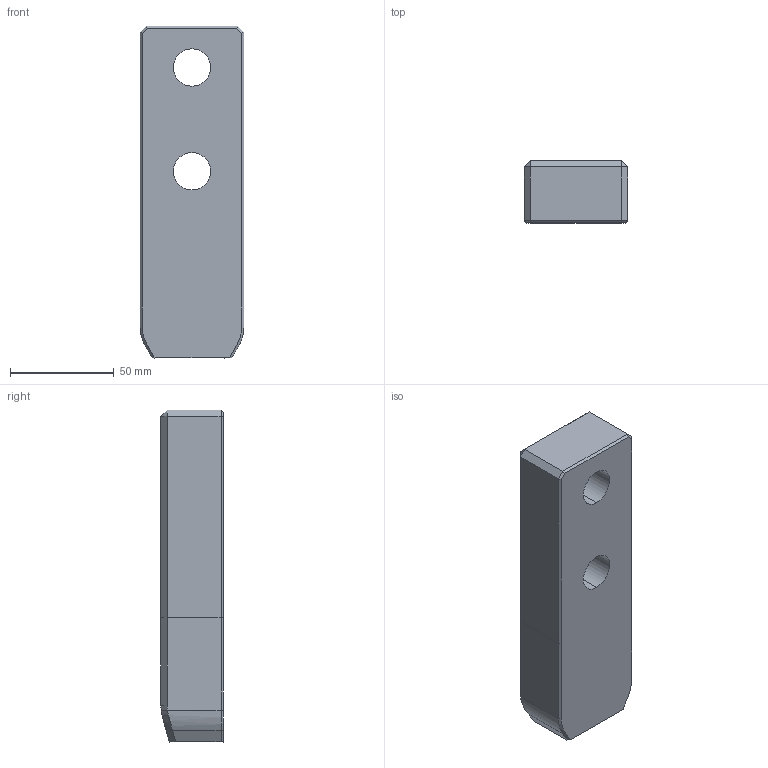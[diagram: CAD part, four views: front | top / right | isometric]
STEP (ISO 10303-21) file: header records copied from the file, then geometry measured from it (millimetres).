
FILE_DESCRIPTION((''),'2;1');
FILE_NAME('','2010-09-08T12:46:21+09:00',('misumi'),(''),'M/STEP i/f 1R2-14','CADmeister v5.1','');
FILE_SCHEMA(('AUTOMOTIVE_DESIGN'));
Length unit declared in the file: millimetre
Products named in the file (1): OGP50-160
Bounding box: 50 x 30 x 160 mm (x, y, z)
Volume: 216025.2 mm3; surface area: 30512.9 mm2
Topology: 1 solids, 1 shells, 49 faces, 114 edges, 68 vertices
Faces by surface type: plane 32, cylinder 9, cone 4, bspline 4
Entity records: 2151 total; most frequent: CARTESIAN_POINT 494, ORIENTED_EDGE 224, DIRECTION 216, COLOUR_RGB 121, CURVE_STYLE 118, PRESENTATION_STYLE_ASSIGNMENT 117, OVER_RIDING_STYLED_ITEM 114, EDGE_CURVE 112
